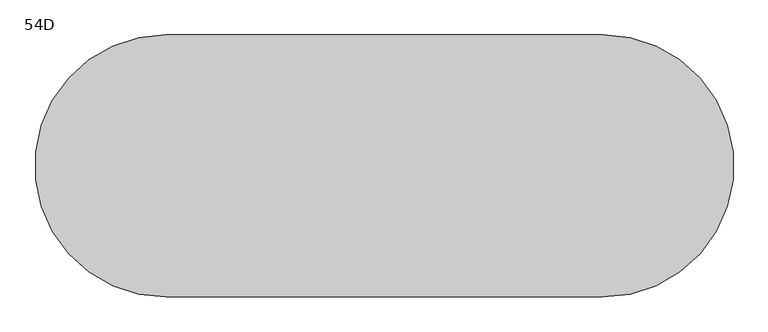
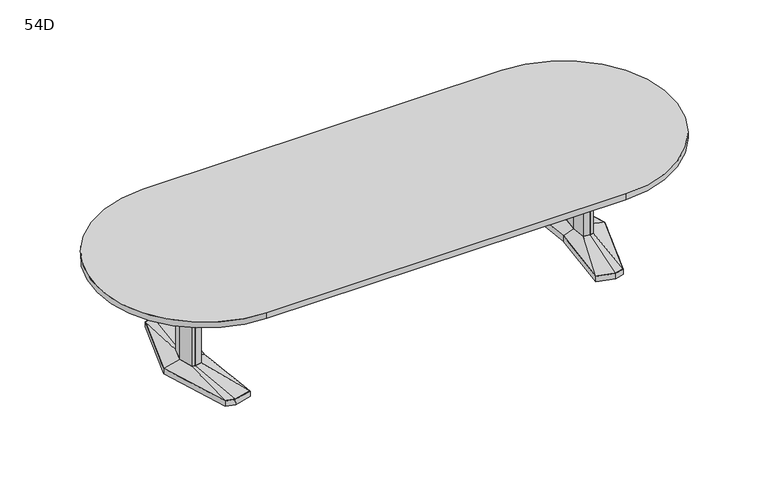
"""IFC4 building model written with IfcOpenShell, lengths in millimetres: furniture geometry, Coalesse_AM_Table_Conference_ETable2_Racetrack_12ft_AluminiumBase : 54D."""

from ifc_helpers import new_model, si_unit, point, frame, frame_2d, origin, place, context, project, spatial, polyline, circle_curve, trimmed, segment, composite_curve, outline, extrude, faceted_brep, source, transform, mapped, element, save
from ifc_brep_helpers import plane_surface, spline_surface, advanced_brep


def furniture_54d_5ac49c39(model_context):
    return source(origin(), model_context, "Body", "SolidModel", [
        faceted_brep([(1210.6306835, 455.5848221, 38.1), (1101.0531277, 426.2263816, 38.1), (1142.2163717, 0.0, 38.1), (1101.0531277, -426.2263816, 38.1), (1210.6306835, -455.5848221, 38.1), (1266.7570396, -440.5478297, 38.1), (1404.0684269, 0.0, 38.1), (1266.7570396, 440.5478297, 38.1), (1210.6306754, 457.2283104, 3.175), (1268.0124472, 441.8549756, 3.175), (1405.73125, 0.0, 3.175), (1268.0124472, -441.8549756, 3.175), (1210.6306754, -457.2283104, 3.175), (1099.34375, -427.4118891, 3.175), (1140.6214856, 0.0, 3.175), (1099.34375, 427.4118891, 3.175), (1214.220115, 428.3273875, 3.175), (1109.1718228, 402.1057253, 3.175), (1117.290518, 377.985069, 3.175), (1217.8095466, 401.0699529, 3.175), (1268.3691725, 387.524361, 3.175), (1267.5631061, 414.0360954, 3.175), (1214.220115, -428.3273875, 3.175), (1267.5631061, -414.0360954, 3.175), (1268.3691725, -387.524361, 3.175), (1217.8095466, -401.0699529, 3.175), (1117.290518, -377.985069, 3.175), (1109.1718228, -402.1057253, 3.175), (1340.8153621, 0.0, 3.175), (1308.5459611, 120.4193755, 3.175), (1259.8987222, 133.471665, 3.175), (1180.0180526, 119.4176561, 3.175), (1168.8868466, 0.0, 3.175), (1180.0180526, -119.4176561, 3.175), (1259.8987222, -133.471665, 3.175), (1308.5459611, -120.4193755, 3.175), (1214.220115, 428.3273875, 0.0), (1267.5631061, 414.0360954, 0.0), (1268.3691725, 387.524361, 0.0), (1217.8095466, 401.0699529, 0.0), (1117.290518, 377.985069, 0.0), (1109.1718228, 402.1057253, 0.0), (1214.220115, -428.3273875, 0.0), (1109.1718228, -402.1057253, 0.0), (1117.290518, -377.985069, 0.0), (1217.8095466, -401.0699529, 0.0), (1268.3691725, -387.524361, 0.0), (1267.5631061, -414.0360954, 0.0), (1340.8153621, 0.0, 0.0), (1308.5459611, -120.4193755, 0.0), (1259.8987222, -133.471665, 0.0), (1180.0180526, -119.4176561, 0.0), (1168.8868466, 0.0, 0.0), (1180.0180526, 119.4176561, 0.0), (1259.8987222, 133.471665, 0.0), (1308.5459611, 120.4193755, 0.0)], [[[0, 1, 2, 3, 4, 5, 6, 7]], [[8, 9, 10, 11, 12, 13, 14, 15], [16, 17, 18, 19, 20, 21], [22, 23, 24, 25, 26, 27], [28, 29, 30, 31, 32, 33, 34, 35]], [[7, 9, 8, 0]], [[6, 10, 9, 7]], [[5, 11, 10, 6]], [[4, 12, 11, 5]], [[3, 13, 12, 4]], [[2, 14, 13, 3]], [[1, 15, 14, 2]], [[0, 8, 15, 1]], [[36, 37, 38, 39, 40, 41]], [[42, 43, 44, 45, 46, 47]], [[48, 49, 50, 51, 52, 53, 54, 55]], [[36, 16, 21, 37]], [[37, 21, 20, 38]], [[38, 20, 19, 39]], [[39, 19, 18, 40]], [[40, 18, 17, 41]], [[41, 17, 16, 36]], [[42, 22, 27, 43]], [[43, 27, 26, 44]], [[44, 26, 25, 45]], [[45, 25, 24, 46]], [[46, 24, 23, 47]], [[47, 23, 22, 42]], [[48, 28, 35, 49]], [[49, 35, 34, 50]], [[50, 34, 33, 51]], [[51, 33, 32, 52]], [[52, 32, 31, 53]], [[53, 31, 30, 54]], [[54, 30, 29, 55]], [[55, 29, 28, 48]]]),
        faceted_brep([(1301.3710836, 0.0, 698.5), (1277.4358546, 89.3188359, 698.5), (1260.5824984, 93.8406728, 698.5), (1258.1826511, 94.4845635, 698.5), (1215.255146, 86.9320037, 698.5), (1207.1520056, 0.0, 698.5), (1215.255146, -86.9320037, 698.5), (1258.1826511, -94.4845635, 698.5), (1260.5824984, -93.8406728, 698.5), (1277.4358546, -89.3188359, 698.5), (1301.3710836, 0.0, 63.5), (1277.4358546, -89.3188359, 63.5), (1260.5824984, -93.8406728, 63.5), (1258.1826511, -94.4845635, 63.5), (1215.255146, -86.9320037, 63.5), (1207.1520056, 0.0, 63.5), (1215.255146, 86.9320037, 63.5), (1258.1826511, 94.4845635, 63.5), (1260.5824984, 93.8406728, 63.5), (1277.4358546, 89.3188359, 63.5)], [[[0, 1, 2, 3, 4, 5, 6, 7, 8, 9]], [[10, 11, 12, 13, 14, 15, 16, 17, 18, 19]], [[9, 11, 10, 0]], [[8, 12, 11, 9]], [[7, 13, 12, 8]], [[6, 14, 13, 7]], [[5, 15, 14, 6]], [[4, 16, 15, 5]], [[3, 17, 16, 4]], [[2, 18, 17, 3]], [[1, 19, 18, 2]], [[0, 10, 19, 1]]]),
        advanced_brep(
        [(1258.1826511, 94.4845635, 63.5), (1215.255146, 86.9320037, 63.5), (1207.1520056, 0.0, 63.5), (1215.255146, -86.9320037, 63.5), (1258.1826511, -94.4845635, 63.5), (1277.4358546, -89.3188359, 63.5), (1301.3710836, 0.0, 63.5), (1277.4358546, 89.3188359, 63.5), (1210.6306835, 455.5848221, 38.1), (1266.7570396, 440.5478297, 38.1), (1404.0684269, 0.0, 38.1), (1266.7570396, -440.5478297, 38.1), (1210.6306835, -455.5848221, 38.1), (1101.0531277, -426.2263816, 38.1), (1142.2163717, 0.0, 38.1), (1101.0531277, 426.2263816, 38.1)],
        [
            (0, 1),
            (1, 2),
            (2, 3),
            (3, 4),
            (4, 5),
            (5, 6),
            (6, 7),
            (7, 0),
            (8, 9),
            (9, 10),
            (10, 11),
            (11, 12),
            (12, 13),
            (13, 14),
            (14, 15),
            (15, 8),
            (8, 0),
            (7, 9),
            (6, 10),
            (5, 11),
            (4, 12),
            (3, 13),
            (2, 14),
            (1, 15),
        ],
        [
            plane_surface(frame((1251.2837991, 0.0, 63.5), z_axis=(0.0, 0.0, 1.0), x_axis=(-0.25884244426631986, -0.9659195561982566, 0.0))),
            plane_surface(frame((1212.8958125, 0.0, 38.1), z_axis=(0.0, 0.0, -1.0), x_axis=(-0.25884244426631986, -0.9659195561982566, 0.0))),
            spline_surface(1, 1, [[(1210.6306835, 455.5848221, 38.1), (1266.7570396, 440.5478297, 38.1)], [(1258.1826511, 94.4845635, 63.5), (1277.4358546, 89.3188359, 63.5)]], [2, 2], [2, 2], [0.0, 1.0], [0.0, 1.0]),
            spline_surface(1, 1, [[(1266.7570396, 440.5478297, 38.1), (1404.0684269, 0.0, 38.1)], [(1277.4358546, 89.3188359, 63.5), (1301.3710836, 0.0, 63.5)]], [2, 2], [2, 2], [0.0, 1.0], [0.0, 1.0]),
            spline_surface(1, 1, [[(1404.0684269, 0.0, 38.1), (1266.7570396, -440.5478297, 38.1)], [(1301.3710836, 0.0, 63.5), (1277.4358546, -89.3188359, 63.5)]], [2, 2], [2, 2], [0.0, 1.0], [0.0, 1.0]),
            spline_surface(1, 1, [[(1266.7570396, -440.5478297, 38.1), (1210.6306835, -455.5848221, 38.1)], [(1277.4358546, -89.3188359, 63.5), (1258.1826511, -94.4845635, 63.5)]], [2, 2], [2, 2], [0.0, 1.0], [0.0, 1.0]),
            spline_surface(1, 1, [[(1210.6306835, -455.5848221, 38.1), (1101.0531277, -426.2263816, 38.1)], [(1258.1826511, -94.4845635, 63.5), (1215.255146, -86.9320037, 63.5)]], [2, 2], [2, 2], [0.0, 1.0], [0.0, 1.0]),
            spline_surface(1, 1, [[(1101.0531277, -426.2263816, 38.1), (1142.2163717, 0.0, 38.1)], [(1215.255146, -86.9320037, 63.5), (1207.1520056, 0.0, 63.5)]], [2, 2], [2, 2], [0.0, 1.0], [0.0, 1.0]),
            spline_surface(1, 1, [[(1142.2163717, 0.0, 38.1), (1101.0531277, 426.2263816, 38.1)], [(1207.1520056, 0.0, 63.5), (1215.255146, 86.9320037, 63.5)]], [2, 2], [2, 2], [0.0, 1.0], [0.0, 1.0]),
            spline_surface(1, 1, [[(1101.0531277, 426.2263816, 38.1), (1210.6306835, 455.5848221, 38.1)], [(1215.255146, 86.9320037, 63.5), (1258.1826511, 94.4845635, 63.5)]], [2, 2], [2, 2], [0.0, 1.0], [0.0, 1.0]),
        ],
        [
            (0, [[1, 2, 3, 4, 5, 6, 7, 8]]),
            (1, [[9, 10, 11, 12, 13, 14, 15, 16]]),
            (2, [[17, -8, 18, -9]]),
            (3, [[-18, -7, 19, -10]]),
            (4, [[-19, -6, 20, -11]]),
            (5, [[-20, -5, 21, -12]]),
            (6, [[-21, -4, 22, -13]]),
            (7, [[-22, -3, 23, -14]]),
            (8, [[-23, -2, 24, -15]]),
            (9, [[-24, -1, -17, -16]]),
        ],
    ),
        faceted_brep([(-1210.6306835, 455.5848221, 38.1), (-1266.7570396, 440.5478297, 38.1), (-1404.0684269, 0.0, 38.1), (-1266.7570396, -440.5478297, 38.1), (-1210.6306835, -455.5848221, 38.1), (-1101.0531277, -426.2263816, 38.1), (-1142.2163717, 0.0, 38.1), (-1101.0531277, 426.2263816, 38.1), (-1210.6306754, 457.2283104, 3.175), (-1099.34375, 427.4118891, 3.175), (-1140.6214856, 0.0, 3.175), (-1099.34375, -427.4118891, 3.175), (-1210.6306754, -457.2283104, 3.175), (-1268.0124472, -441.8549756, 3.175), (-1405.73125, 0.0, 3.175), (-1268.0124472, 441.8549756, 3.175), (-1214.220115, 428.3273875, 3.175), (-1267.5631061, 414.0360954, 3.175), (-1268.3691725, 387.524361, 3.175), (-1217.8095466, 401.0699529, 3.175), (-1117.290518, 377.985069, 3.175), (-1109.1718228, 402.1057253, 3.175), (-1214.220115, -428.3273875, 3.175), (-1109.1718228, -402.1057253, 3.175), (-1117.290518, -377.985069, 3.175), (-1217.8095466, -401.0699529, 3.175), (-1268.3691725, -387.524361, 3.175), (-1267.5631061, -414.0360954, 3.175), (-1340.8153621, 0.0, 3.175), (-1308.5459611, -120.4193755, 3.175), (-1259.8987222, -133.471665, 3.175), (-1180.0180526, -119.4176561, 3.175), (-1168.8868466, 0.0, 3.175), (-1180.0180526, 119.4176561, 3.175), (-1259.8987222, 133.471665, 3.175), (-1308.5459611, 120.4193755, 3.175), (-1214.220115, 428.3273875, 0.0), (-1109.1718228, 402.1057253, 0.0), (-1117.290518, 377.985069, 0.0), (-1217.8095466, 401.0699529, 0.0), (-1268.3691725, 387.524361, 0.0), (-1267.5631061, 414.0360954, 0.0), (-1214.220115, -428.3273875, 0.0), (-1267.5631061, -414.0360954, 0.0), (-1268.3691725, -387.524361, 0.0), (-1217.8095466, -401.0699529, 0.0), (-1117.290518, -377.985069, 0.0), (-1109.1718228, -402.1057253, 0.0), (-1340.8153621, 0.0, 0.0), (-1308.5459611, 120.4193755, 0.0), (-1259.8987222, 133.471665, 0.0), (-1180.0180526, 119.4176561, 0.0), (-1168.8868466, 0.0, 0.0), (-1180.0180526, -119.4176561, 0.0), (-1259.8987222, -133.471665, 0.0), (-1308.5459611, -120.4193755, 0.0)], [[[0, 1, 2, 3, 4, 5, 6, 7]], [[8, 9, 10, 11, 12, 13, 14, 15], [16, 17, 18, 19, 20, 21], [22, 23, 24, 25, 26, 27], [28, 29, 30, 31, 32, 33, 34, 35]], [[1, 0, 8, 15]], [[2, 1, 15, 14]], [[3, 2, 14, 13]], [[4, 3, 13, 12]], [[5, 4, 12, 11]], [[6, 5, 11, 10]], [[7, 6, 10, 9]], [[0, 7, 9, 8]], [[36, 37, 38, 39, 40, 41]], [[42, 43, 44, 45, 46, 47]], [[48, 49, 50, 51, 52, 53, 54, 55]], [[36, 41, 17, 16]], [[41, 40, 18, 17]], [[40, 39, 19, 18]], [[39, 38, 20, 19]], [[38, 37, 21, 20]], [[37, 36, 16, 21]], [[42, 47, 23, 22]], [[47, 46, 24, 23]], [[46, 45, 25, 24]], [[45, 44, 26, 25]], [[44, 43, 27, 26]], [[43, 42, 22, 27]], [[48, 55, 29, 28]], [[55, 54, 30, 29]], [[54, 53, 31, 30]], [[53, 52, 32, 31]], [[52, 51, 33, 32]], [[51, 50, 34, 33]], [[50, 49, 35, 34]], [[49, 48, 28, 35]]]),
        faceted_brep([(-1301.3710836, 0.0, 698.5), (-1277.4358546, -89.3188359, 698.5), (-1260.5824984, -93.8406728, 698.5), (-1258.1826511, -94.4845635, 698.5), (-1215.255146, -86.9320037, 698.5), (-1207.1520056, 0.0, 698.5), (-1215.255146, 86.9320037, 698.5), (-1258.1826511, 94.4845635, 698.5), (-1260.5824984, 93.8406728, 698.5), (-1277.4358546, 89.3188359, 698.5), (-1301.3710836, 0.0, 63.5), (-1277.4358546, 89.3188359, 63.5), (-1260.5824984, 93.8406728, 63.5), (-1258.1826511, 94.4845635, 63.5), (-1215.255146, 86.9320037, 63.5), (-1207.1520056, 0.0, 63.5), (-1215.255146, -86.9320037, 63.5), (-1258.1826511, -94.4845635, 63.5), (-1260.5824984, -93.8406728, 63.5), (-1277.4358546, -89.3188359, 63.5)], [[[0, 1, 2, 3, 4, 5, 6, 7, 8, 9]], [[10, 11, 12, 13, 14, 15, 16, 17, 18, 19]], [[1, 0, 10, 19]], [[2, 1, 19, 18]], [[3, 2, 18, 17]], [[4, 3, 17, 16]], [[5, 4, 16, 15]], [[6, 5, 15, 14]], [[7, 6, 14, 13]], [[8, 7, 13, 12]], [[9, 8, 12, 11]], [[0, 9, 11, 10]]]),
        advanced_brep(
        [(-1258.1826511, 94.4845635, 63.5), (-1277.4358546, 89.3188359, 63.5), (-1301.3710836, 0.0, 63.5), (-1277.4358546, -89.3188359, 63.5), (-1258.1826511, -94.4845635, 63.5), (-1215.255146, -86.9320037, 63.5), (-1207.1520056, 0.0, 63.5), (-1215.255146, 86.9320037, 63.5), (-1210.6306835, 455.5848221, 38.1), (-1101.0531277, 426.2263816, 38.1), (-1142.2163717, 0.0, 38.1), (-1101.0531277, -426.2263816, 38.1), (-1210.6306835, -455.5848221, 38.1), (-1266.7570396, -440.5478297, 38.1), (-1404.0684269, 0.0, 38.1), (-1266.7570396, 440.5478297, 38.1)],
        [
            (0, 1),
            (1, 2),
            (2, 3),
            (3, 4),
            (4, 5),
            (5, 6),
            (6, 7),
            (7, 0),
            (8, 9),
            (9, 10),
            (10, 11),
            (11, 12),
            (12, 13),
            (13, 14),
            (14, 15),
            (15, 8),
            (15, 1),
            (0, 8),
            (14, 2),
            (13, 3),
            (12, 4),
            (11, 5),
            (10, 6),
            (9, 7),
        ],
        [
            plane_surface(frame((-1251.2837991, 0.0, 63.5), z_axis=(0.0, 0.0, 1.0), x_axis=(0.25884244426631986, -0.9659195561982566, 0.0))),
            plane_surface(frame((-1212.8958125, 0.0, 38.1), z_axis=(0.0, 0.0, -1.0), x_axis=(0.25884244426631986, -0.9659195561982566, 0.0))),
            spline_surface(1, 1, [[(-1210.6306835, 455.5848221, 38.1), (-1258.1826511, 94.4845635, 63.5)], [(-1266.7570396, 440.5478297, 38.1), (-1277.4358546, 89.3188359, 63.5)]], [2, 2], [2, 2], [0.0, 1.0], [0.0, 1.0]),
            spline_surface(1, 1, [[(-1266.7570396, 440.5478297, 38.1), (-1277.4358546, 89.3188359, 63.5)], [(-1404.0684269, 0.0, 38.1), (-1301.3710836, 0.0, 63.5)]], [2, 2], [2, 2], [0.0, 1.0], [0.0, 1.0]),
            spline_surface(1, 1, [[(-1404.0684269, 0.0, 38.1), (-1301.3710836, 0.0, 63.5)], [(-1266.7570396, -440.5478297, 38.1), (-1277.4358546, -89.3188359, 63.5)]], [2, 2], [2, 2], [0.0, 1.0], [0.0, 1.0]),
            spline_surface(1, 1, [[(-1266.7570396, -440.5478297, 38.1), (-1277.4358546, -89.3188359, 63.5)], [(-1210.6306835, -455.5848221, 38.1), (-1258.1826511, -94.4845635, 63.5)]], [2, 2], [2, 2], [0.0, 1.0], [0.0, 1.0]),
            spline_surface(1, 1, [[(-1210.6306835, -455.5848221, 38.1), (-1258.1826511, -94.4845635, 63.5)], [(-1101.0531277, -426.2263816, 38.1), (-1215.255146, -86.9320037, 63.5)]], [2, 2], [2, 2], [0.0, 1.0], [0.0, 1.0]),
            spline_surface(1, 1, [[(-1101.0531277, -426.2263816, 38.1), (-1215.255146, -86.9320037, 63.5)], [(-1142.2163717, 0.0, 38.1), (-1207.1520056, 0.0, 63.5)]], [2, 2], [2, 2], [0.0, 1.0], [0.0, 1.0]),
            spline_surface(1, 1, [[(-1142.2163717, 0.0, 38.1), (-1207.1520056, 0.0, 63.5)], [(-1101.0531277, 426.2263816, 38.1), (-1215.255146, 86.9320037, 63.5)]], [2, 2], [2, 2], [0.0, 1.0], [0.0, 1.0]),
            spline_surface(1, 1, [[(-1101.0531277, 426.2263816, 38.1), (-1215.255146, 86.9320037, 63.5)], [(-1210.6306835, 455.5848221, 38.1), (-1258.1826511, 94.4845635, 63.5)]], [2, 2], [2, 2], [0.0, 1.0], [0.0, 1.0]),
        ],
        [
            (0, [[1, 2, 3, 4, 5, 6, 7, 8]]),
            (1, [[9, 10, 11, 12, 13, 14, 15, 16]]),
            (2, [[-16, 17, -1, 18]]),
            (3, [[-15, 19, -2, -17]]),
            (4, [[-14, 20, -3, -19]]),
            (5, [[-13, 21, -4, -20]]),
            (6, [[-12, 22, -5, -21]]),
            (7, [[-11, 23, -6, -22]]),
            (8, [[-10, 24, -7, -23]]),
            (9, [[-9, -18, -8, -24]]),
        ],
    ),
        extrude(outline(polyline([(96.8375, 698.5), (103.1875, 698.5), (103.1875, 476.25), (-103.1875, 476.25), (-103.1875, 698.5), (-96.8375, 698.5), (-96.8375, 482.6), (96.8375, 482.6), (96.8375, 698.5)])), frame((-1207.29375, 0.0, 0.0), z_axis=(1.0, 0.0, 0.0), x_axis=(0.0, 1.0, 0.0)), (0.0, 0.0, 1.0), 2414.5875),
        extrude(outline(composite_curve([segment(trimmed(circle_curve(frame_2d((-1143.0, 0.0)), 685.8), [point((-1143.0, -685.8))], [point((-1143.0, 685.8))], False, "CARTESIAN"), True, "CONTINUOUS"), segment(polyline([(-1143.0, 685.8), (1143.0, 685.8)]), True, "CONTINUOUS"), segment(trimmed(circle_curve(frame_2d((1143.0, 0.0)), 685.8), [point((1143.0, 685.8))], [point((1143.0, -685.8))], False, "CARTESIAN"), True, "CONTINUOUS"), segment(polyline([(1143.0, -685.8), (-1143.0, -685.8)]), True, "CONTINUOUS")], self_intersect=False)), frame((0.0, 0.0, 698.5), z_axis=(0.0, 0.0, 1.0), x_axis=(1.0, 0.0, 0.0)), (0.0, 0.0, 1.0), 38.1),
    ])


if __name__ == "__main__":
    model = new_model("IFC4")
    model_context = context("Model", 3, world=origin())
    ifc_project = project(units=[si_unit("LENGTHUNIT", "METRE", prefix="MILLI")], contexts=[model_context])
    site = spatial("IfcSite", under=ifc_project)
    building = spatial("IfcBuilding", under=site)
    placement = place(None, origin())
    furniture_54d_shape = furniture_54d_5ac49c39(model_context)
    element("IfcFurniture", 1, ObjectType="Coalesse_AM_Table_Conference_ETable2_Racetrack_12ft_AluminiumBase : 54D", at=placement, inside=building, context=model_context, shape_type="MappedRepresentation", body=[
        mapped(furniture_54d_shape, transform((0.0, 0.0, 0.0), x_axis=(1.0, 0.0, 0.0), y_axis=(0.0, 1.0, 0.0), z_axis=(0.0, 0.0, 1.0))),
    ])
    save(model, "model.ifc")
